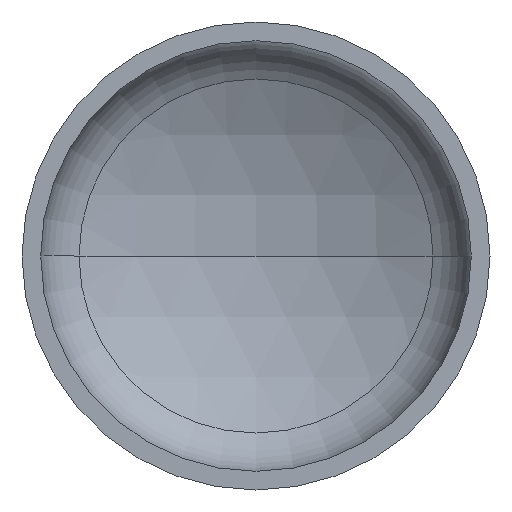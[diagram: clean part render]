
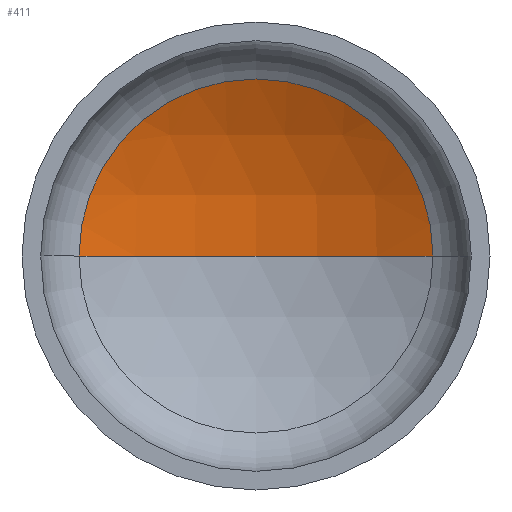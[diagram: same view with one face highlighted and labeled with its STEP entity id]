
A CAD part, front view. The second image highlights one B-rep face of the part: STEP entity #411.
In plain terms, the highlighted spherical face has radius 800 mm.
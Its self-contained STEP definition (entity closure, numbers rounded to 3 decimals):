
#3 = CARTESIAN_POINT ( 'NONE',  ( 378.295, 256.576, 0. ) ) ;
#7 = AXIS2_PLACEMENT_3D ( 'NONE', #134, #137, #81 ) ;
#15 = AXIS2_PLACEMENT_3D ( 'NONE', #395, #200, #170 ) ;
#23 = AXIS2_PLACEMENT_3D ( 'NONE', #112, #121, #148 ) ;
#48 = EDGE_LOOP ( 'NONE', ( #336, #172, #156 ) ) ;
#81 = DIRECTION ( 'NONE',  ( 1., 0., 0. ) ) ;
#90 = VERTEX_POINT ( 'NONE', #301 ) ;
#112 = CARTESIAN_POINT ( 'NONE',  ( 0., -448.331, 0. ) ) ;
#115 = DIRECTION ( 'NONE',  ( -1., 0., 0. ) ) ;
#121 = DIRECTION ( 'NONE',  ( 0., 0., -1. ) ) ;
#134 = CARTESIAN_POINT ( 'NONE',  ( 0., 256.576, 0. ) ) ;
#137 = DIRECTION ( 'NONE',  ( 0., -1., 0. ) ) ;
#148 = DIRECTION ( 'NONE',  ( -1., 0., 0. ) ) ;
#156 = ORIENTED_EDGE ( 'NONE', *, *, #366, .T. ) ;
#161 = CARTESIAN_POINT ( 'NONE',  ( -378.295, 256.576, 0. ) ) ;
#170 = DIRECTION ( 'NONE',  ( 1., 0., 0. ) ) ;
#172 = ORIENTED_EDGE ( 'NONE', *, *, #351, .T. ) ;
#190 = AXIS2_PLACEMENT_3D ( 'NONE', #243, #245, #115 ) ;
#200 = DIRECTION ( 'NONE',  ( 0., 0., 1. ) ) ;
#237 = CIRCLE ( 'NONE', #23, 800. ) ;
#243 = CARTESIAN_POINT ( 'NONE',  ( 0., -448.331, 0. ) ) ;
#245 = DIRECTION ( 'NONE',  ( 0., 0., -1. ) ) ;
#273 = CIRCLE ( 'NONE', #7, 378.295 ) ;
#301 = CARTESIAN_POINT ( 'NONE',  ( 0., 351.669, 0. ) ) ;
#308 = FACE_OUTER_BOUND ( 'NONE', #48, .T. ) ;
#331 = CIRCLE ( 'NONE', #15, 800. ) ;
#336 = ORIENTED_EDGE ( 'NONE', *, *, #357, .F. ) ;
#340 = VERTEX_POINT ( 'NONE', #3 ) ;
#351 = EDGE_CURVE ( 'NONE', #90, #340, #237, .T. ) ;
#357 = EDGE_CURVE ( 'NONE', #90, #409, #331, .T. ) ;
#366 = EDGE_CURVE ( 'NONE', #340, #409, #273, .T. ) ;
#367 = SPHERICAL_SURFACE ( 'NONE', #190, 800. ) ;
#395 = CARTESIAN_POINT ( 'NONE',  ( 0., -448.331, 0. ) ) ;
#409 = VERTEX_POINT ( 'NONE', #161 ) ;
#411 = ADVANCED_FACE ( 'NONE', ( #308 ), #367, .F. ) ;
